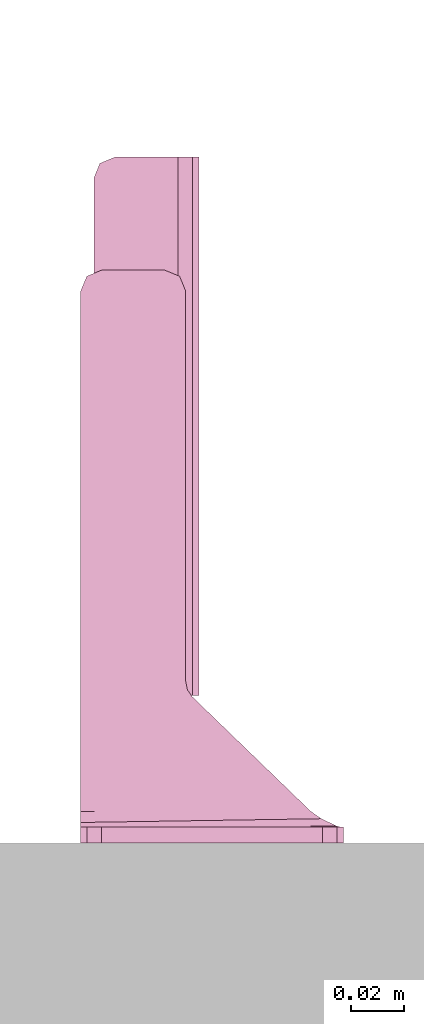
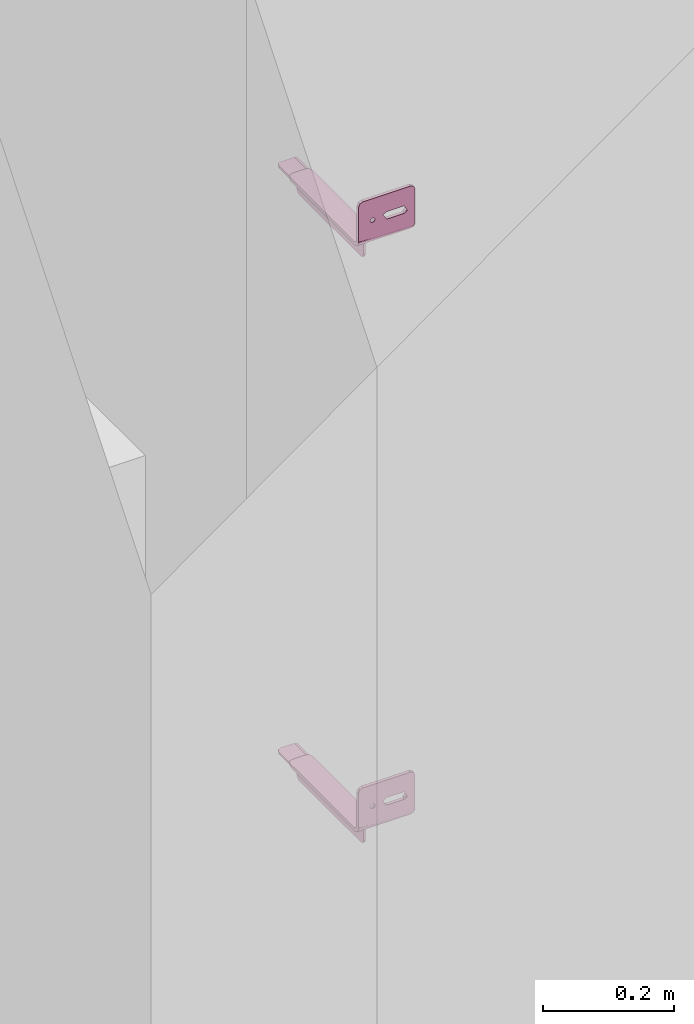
# One storey, part 10 of 15: 2 transport elements.
"""IFC2X3 building model written with IfcOpenShell, lengths in millimetres."""

from ifc_helpers import new_model, entity, si_unit, converted_unit, derived_unit, direction, frame, origin, place, context, subcontext, project, spatial, faceted_brep, source, transform, mapped, type_object, type_shapes, element, save


model = new_model("IFC2X3")

# Units and contexts
model_context = context("Model", 3, precision=0.01, world=origin(), true_north=direction((6.12303176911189e-17, 1.0)))
body_context = subcontext(model_context, "Body", "Model", "MODEL_VIEW")
ifc_project = project(units=[si_unit("LENGTHUNIT", "METRE", prefix="MILLI"), si_unit("AREAUNIT", "SQUARE_METRE"), si_unit("VOLUMEUNIT", "CUBIC_METRE"), converted_unit("PLANEANGLEUNIT", "DEGREE", entity("IfcRatioMeasure", 0.0174532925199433), si_unit("PLANEANGLEUNIT", "RADIAN"), dimensions=[0, 0, 0, 0, 0, 0, 0]), si_unit("MASSUNIT", "GRAM", prefix="KILO"), derived_unit("MASSDENSITYUNIT", [(si_unit("MASSUNIT", "GRAM", prefix="KILO"), 1), (si_unit("LENGTHUNIT", "METRE"), -3)]), si_unit("TIMEUNIT", "SECOND"), si_unit("FREQUENCYUNIT", "HERTZ"), si_unit("THERMODYNAMICTEMPERATUREUNIT", "DEGREE_CELSIUS"), derived_unit("THERMALTRANSMITTANCEUNIT", [(si_unit("MASSUNIT", "GRAM", prefix="KILO"), 1), (si_unit("THERMODYNAMICTEMPERATUREUNIT", "KELVIN"), -1), (si_unit("TIMEUNIT", "SECOND"), -3)]), derived_unit("VOLUMETRICFLOWRATEUNIT", [(si_unit("LENGTHUNIT", "METRE"), 3), (si_unit("TIMEUNIT", "SECOND"), -1)]), si_unit("ELECTRICCURRENTUNIT", "AMPERE"), si_unit("ELECTRICVOLTAGEUNIT", "VOLT"), si_unit("POWERUNIT", "WATT"), si_unit("FORCEUNIT", "NEWTON", prefix="KILO"), si_unit("ILLUMINANCEUNIT", "LUX"), si_unit("LUMINOUSFLUXUNIT", "LUMEN"), si_unit("LUMINOUSINTENSITYUNIT", "CANDELA"), derived_unit("USERDEFINED", [(si_unit("MASSUNIT", "GRAM", prefix="KILO"), -1), (si_unit("LENGTHUNIT", "METRE"), -2), (si_unit("TIMEUNIT", "SECOND"), 3), (si_unit("LUMINOUSFLUXUNIT", "LUMEN"), 1)]), derived_unit("LINEARVELOCITYUNIT", [(si_unit("LENGTHUNIT", "METRE"), 1), (si_unit("TIMEUNIT", "SECOND"), -1)]), si_unit("PRESSUREUNIT", "PASCAL"), derived_unit("USERDEFINED", [(si_unit("LENGTHUNIT", "METRE"), -2), (si_unit("MASSUNIT", "GRAM", prefix="KILO"), 1), (si_unit("TIMEUNIT", "SECOND"), -2)])], contexts=[model_context])

# Site, building, storey, space
site_placement = place(None, frame((-151.875543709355, 2715.0, 0.0)))
site = spatial("IfcSite", under=ifc_project, at=site_placement, Name="Surface", CompositionType="ELEMENT")
building_placement = place(site_placement, origin())
building = spatial("IfcBuilding", under=site, at=building_placement, CompositionType="ELEMENT")
storey_placement = place(building_placement, frame((0.0, 0.0, 7670.0)))
storey = spatial("IfcBuildingStorey", under=building, at=storey_placement, Name="uus 3 korrus", CompositionType="ELEMENT", Elevation=7670.00000000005)
space_placement = place(storey_placement, origin())
space = spatial("IfcSpace", under=storey, at=space_placement, Name="327a", CompositionType="ELEMENT", InteriorOrExteriorSpace="INTERNAL")

# Transport elements
transport_element_type = type_object("IfcTransportElementType", Name="KONE_CWT_Bracket_KM51010607V000_L97-565_LH")
shared_shape = source(origin(), body_context, "Body", "Brep", [
    faceted_brep([(6.59527223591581, 68.5952722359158, 9.59527223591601), (6.59527223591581, 68.5952722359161, 198.595272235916), (8.93841798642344, 68.5952722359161, 204.252126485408), (14.5952722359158, 68.5952722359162, 206.595272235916), (38.5952722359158, 68.5952722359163, 206.595272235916), (38.5952722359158, 68.595272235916, 1.59527223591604), (14.5952722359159, 68.5952722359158, 1.595272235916), (8.93841798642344, 68.5952722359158, 3.93841798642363), (46.5952722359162, 9.59527223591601, 1.59527223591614), (46.5952722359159, 60.595272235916, 1.59527223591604), (46.5952722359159, 60.5952722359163, 206.595272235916), (46.5952722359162, 9.59527223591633, 206.595272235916), (46.5952722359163, 3.93841798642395, 204.252126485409), (46.5952722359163, 1.59527223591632, 198.595272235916), (46.5952722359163, 1.59527223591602, 9.59527223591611), (46.5952722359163, 3.93841798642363, 3.93841798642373), (44.2521264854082, 66.2521264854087, 206.595272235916), (44.2521264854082, 66.2521264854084, 1.59527223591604), (14.5952722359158, 64.5952722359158, 1.59527223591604), (42.5952722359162, 9.59527223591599, 1.59527223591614), (42.5952722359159, 60.595272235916, 1.59527223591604), (41.423699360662, 63.4236993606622, 1.59527223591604), (38.5952722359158, 64.595272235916, 1.59527223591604), (14.5952722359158, 64.5952722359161, 206.595272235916), (38.5952722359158, 64.5952722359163, 206.595272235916), (41.423699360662, 63.4236993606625, 206.595272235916), (42.5952722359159, 60.5952722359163, 206.595272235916), (42.5952722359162, 9.59527223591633, 206.595272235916), (6.59527223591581, 64.5952722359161, 198.595272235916), (6.59527223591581, 64.5952722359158, 9.59527223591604), (8.93841798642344, 64.5952722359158, 3.93841798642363), (8.93841798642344, 64.5952722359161, 204.252126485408), (42.5952722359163, 1.595272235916, 9.59527223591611), (42.5952722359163, 1.59527223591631, 198.595272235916), (42.5952722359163, 3.93841798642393, 204.252126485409), (42.5952722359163, 3.93841798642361, 3.93841798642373)], [[[0, 1, 2, 3, 4, 5, 6, 7]], [[8, 9, 10, 11, 12, 13, 14, 15]], [[5, 4, 16, 17]], [[16, 10, 9, 17]], [[18, 6, 5, 17, 9, 8, 19, 20, 21, 22]], [[4, 3, 23, 24, 25, 26, 27, 11, 10, 16]], [[28, 1, 0, 29]], [[29, 30, 18, 22, 24, 23, 31, 28]], [[21, 25, 24, 22]], [[20, 26, 25, 21]], [[32, 14, 13, 33]], [[32, 33, 34, 27, 26, 20, 19, 35]], [[11, 27, 34, 12]], [[34, 33, 13, 12]], [[14, 32, 35, 15]], [[35, 19, 8, 15]], [[1, 28, 31, 2]], [[31, 23, 3, 2]], [[6, 18, 30, 7]], [[30, 29, 0, 7]]]),
    faceted_brep([(9.59527223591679, 68.5952722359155, 44.5952722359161), (33.5952722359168, 68.5952722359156, 44.5952722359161), (39.2521264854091, 68.5952722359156, 46.9384179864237), (41.5952722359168, 68.5952722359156, 52.5952722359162), (41.5952722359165, 68.5952722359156, 201.201861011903), (42.2304431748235, 68.5952722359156, 204.325847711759), (44.0350954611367, 68.5952722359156, 206.953768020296), (89.1814791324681, 68.5952722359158, 250.595272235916), (1.59527223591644, 68.5952722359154, 250.595272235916), (1.59527223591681, 68.5952722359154, 52.5952722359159), (3.93841798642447, 68.5952722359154, 46.9384179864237), (1.59527223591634, 80.5952722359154, 262.595272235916), (22.095272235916, 113.556110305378, 262.595272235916), (1.595272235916, 145.595272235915, 262.595272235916), (24.345272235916, 109.658995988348, 262.595272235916), (28.845272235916, 109.658995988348, 262.595272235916), (51.0952722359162, 106.595272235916, 262.595272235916), (101.024082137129, 80.5952722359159, 262.595272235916), (82.0952722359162, 106.595272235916, 262.595272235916), (101.595272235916, 83.5639054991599, 262.595272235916), (101.45117699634, 82.0523631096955, 262.595272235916), (88.1574500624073, 110.095272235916, 262.595272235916), (101.595272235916, 145.595272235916, 262.595272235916), (82.0952722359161, 120.595272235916, 262.595272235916), (93.5952722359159, 153.595272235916, 262.595272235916), (99.2521264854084, 151.252126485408, 262.595272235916), (51.0952722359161, 120.595272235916, 262.595272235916), (9.59527223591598, 153.595272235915, 262.595272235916), (3.93841798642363, 151.252126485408, 262.595272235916), (24.345272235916, 117.453224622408, 262.595272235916), (28.845272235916, 117.453224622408, 262.595272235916), (45.0330944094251, 117.095272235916, 262.595272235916), (31.095272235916, 113.556110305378, 262.595272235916), (1.59527223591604, 145.595272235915, 256.595272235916), (1.59527223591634, 80.5952722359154, 256.595272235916), (1.59527223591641, 76.3526315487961, 254.837912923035), (1.59527223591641, 74.5952722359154, 250.595272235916), (1.59527223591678, 74.5952722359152, 52.5952722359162), (1.59527223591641, 72.1099908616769, 259.080553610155), (93.595272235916, 153.595272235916, 256.595272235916), (9.59527223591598, 153.595272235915, 256.595272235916), (101.595272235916, 83.5639054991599, 256.595272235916), (101.595272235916, 145.595272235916, 256.595272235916), (101.024082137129, 80.5952722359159, 258.505131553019), (101.024082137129, 80.5952722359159, 256.595272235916), (101.45117699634, 82.0523631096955, 256.595272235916), (101.024082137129, 80.5952722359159, 260.550201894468), (22.095272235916, 113.556110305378, 256.595272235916), (24.345272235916, 117.453224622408, 256.595272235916), (3.93841798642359, 151.252126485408, 256.595272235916), (28.845272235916, 117.453224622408, 256.595272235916), (51.0952722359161, 120.595272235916, 256.595272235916), (82.0952722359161, 120.595272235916, 256.595272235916), (99.2521264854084, 151.252126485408, 256.595272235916), (88.1574500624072, 117.095272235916, 256.595272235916), (82.0952722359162, 106.595272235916, 256.595272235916), (51.0952722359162, 106.595272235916, 256.595272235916), (28.845272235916, 109.658995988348, 256.595272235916), (45.0330944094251, 110.095272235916, 256.595272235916), (31.095272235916, 113.556110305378, 256.595272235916), (24.345272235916, 109.658995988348, 256.595272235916), (90.8716474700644, 69.4620352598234, 252.858782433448), (92.5618158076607, 70.3287982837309, 255.12229263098), (95.1663075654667, 71.6644505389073, 258.610284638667), (97.465270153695, 74.4277936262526, 260.483120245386), (99.1554490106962, 76.4593813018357, 261.860013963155), (100.266113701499, 78.4119141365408, 262.394973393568), (100.712666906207, 79.6982283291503, 262.51297842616), (99.5844357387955, 77.2135339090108, 262.066638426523), (93.1709213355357, 75.2946816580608, 253.406631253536), (89.1814791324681, 74.5952722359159, 250.595272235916), (99.1554490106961, 78.5273267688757, 256.227643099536), (96.1631851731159, 76.9110042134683, 254.817137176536), (100.210249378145, 79.4435397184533, 256.483694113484), (91.9979663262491, 73.1956418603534, 253.24829144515), (95.9182311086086, 75.042966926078, 256.584606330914), (93.8250527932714, 72.2078564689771, 255.941846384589), (96.5595031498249, 74.2861590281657, 258.572840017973), (99.1554490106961, 77.1486964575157, 259.982557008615), (89.1814791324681, 72.6854129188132, 250.595272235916), (89.1814791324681, 73.6403425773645, 250.595272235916), (99.1554490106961, 77.8380116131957, 258.105100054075), (91.5229558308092, 70.8366156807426, 253.466684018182), (89.1814791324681, 70.6403425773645, 250.595272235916), (99.8105848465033, 78.1658035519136, 259.676951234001), (100.153361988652, 79.0035157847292, 258.299767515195), (100.441096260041, 79.1968158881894, 259.981181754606), (44.0350954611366, 74.5952722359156, 206.953768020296), (41.5952722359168, 74.5952722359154, 52.5952722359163), (41.5952722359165, 74.5952722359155, 201.201861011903), (33.5952722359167, 74.5952722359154, 44.5952722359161), (9.59527223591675, 74.5952722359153, 44.5952722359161), (42.2304431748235, 74.5952722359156, 204.325847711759), (39.2521264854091, 74.5952722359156, 46.9384179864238), (3.9384179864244, 74.5952722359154, 46.9384179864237)], [[[0, 1, 2, 3, 4, 5, 6, 7, 8, 9, 10]], [[11, 12, 13]], [[12, 11, 14]], [[15, 14, 11]], [[15, 11, 16]], [[16, 11, 17]], [[18, 16, 17]], [[17, 19, 18]], [[17, 20, 19]], [[18, 19, 21]], [[21, 19, 22]], [[23, 21, 22]], [[22, 24, 23]], [[24, 22, 25]], [[26, 23, 24]], [[26, 24, 27]], [[13, 27, 28]], [[27, 13, 29]], [[27, 30, 26]], [[29, 30, 27]], [[26, 30, 31]], [[30, 32, 31]], [[31, 32, 16]], [[32, 15, 16]], [[13, 12, 29]], [[13, 33, 34, 35, 36, 37, 9, 8, 38, 11]], [[39, 40, 27, 24]], [[19, 41, 42, 22]], [[43, 44, 45, 20, 17, 46]], [[45, 41, 19, 20]], [[33, 47, 34]], [[48, 47, 33]], [[48, 33, 40]], [[49, 40, 33]], [[40, 50, 48]], [[51, 50, 40]], [[40, 39, 51]], [[39, 52, 51]], [[52, 39, 42]], [[53, 42, 39]], [[42, 54, 52]], [[42, 41, 54]], [[54, 41, 55]], [[55, 41, 44]], [[41, 45, 44]], [[44, 56, 55]], [[44, 34, 56]], [[56, 34, 57]], [[57, 58, 56]], [[51, 59, 50]], [[58, 59, 51]], [[58, 57, 59]], [[60, 34, 47]], [[34, 60, 57]], [[54, 23, 52]], [[21, 23, 54]], [[55, 18, 21]], [[54, 55, 21]], [[26, 51, 52, 23]], [[58, 16, 56]], [[31, 16, 58]], [[51, 26, 31]], [[58, 51, 31]], [[18, 55, 56, 16]], [[38, 7, 61, 62, 63]], [[38, 8, 7]], [[38, 63, 64, 65]], [[11, 66, 67, 17]], [[65, 11, 38]], [[11, 65, 68, 66]], [[36, 69, 70]], [[69, 36, 35]], [[35, 71, 72, 69]], [[34, 44, 73]], [[35, 34, 71]], [[73, 71, 34]], [[70, 69, 74]], [[75, 69, 72, 71]], [[76, 77, 63]], [[64, 77, 78]], [[74, 79, 80, 70]], [[78, 65, 64]], [[75, 74, 69]], [[77, 81, 78]], [[64, 63, 77]], [[76, 62, 82]], [[82, 79, 74]], [[82, 61, 83]], [[61, 82, 62]], [[74, 75, 76]], [[76, 63, 62]], [[76, 75, 77]], [[75, 81, 77]], [[74, 76, 82]], [[61, 7, 83]], [[82, 83, 79]], [[75, 71, 81]], [[84, 78, 81]], [[84, 66, 68]], [[68, 78, 84]], [[73, 85, 71]], [[86, 84, 85]], [[46, 17, 67]], [[46, 86, 43]], [[81, 71, 85]], [[67, 66, 86]], [[46, 67, 86]], [[43, 86, 85]], [[84, 86, 66]], [[81, 85, 84]], [[85, 44, 43]], [[85, 73, 44]], [[68, 65, 78]], [[80, 79, 83, 7, 6, 87, 70]], [[4, 3, 88, 89]], [[90, 1, 0, 91]], [[37, 36, 70, 87, 92, 89, 88, 93, 90, 91, 94]], [[1, 90, 93, 2]], [[93, 88, 3, 2]], [[9, 37, 94, 10]], [[94, 91, 0, 10]], [[27, 40, 49, 28]], [[49, 33, 13, 28]], [[22, 42, 53, 25]], [[53, 39, 24, 25]], [[92, 5, 4, 89]], [[87, 6, 5, 92]], [[14, 60, 47, 12]], [[14, 15, 57, 60]], [[32, 59, 57, 15]], [[30, 50, 59, 32]], [[30, 29, 48, 50]], [[12, 47, 48, 29]]]),
])
type_shapes(transport_element_type, [shared_shape])
for number, where, z_axis, x_axis in (
    (1, (29858.0224948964, 19922.5952724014, 1621.4050682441), (0.0, -1.0, 0.0), (1.0, 0.0, 0.0)),
    (2, (29858.0224948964, 19922.5952724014, 2716.4051032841), (0.0, -1.0, 0.0), (1.0, 0.0, 0.0)),
):
    element("IfcTransportElement", number, at=place(space_placement, frame(where, z_axis=z_axis, x_axis=x_axis)), inside=space, type_object=transport_element_type, Name="KONE_CWT_Bracket_KM51010607V000_L97-565_LH:KONE_CWT_Bracket_KM51010607V000_L97-565_LH", ObjectType="KONE_CWT_Bracket_KM51010607V000_L97-565_LH", CapacityByNumber=0.0, CapacityByWeight=0.0, OperationType="ELEVATOR", context=body_context, shape_type="MappedRepresentation", body=[
        mapped(shared_shape, transform((0.0, 0.0, 0.0), scale=1.0)),
    ])

save(model, "model.ifc")
